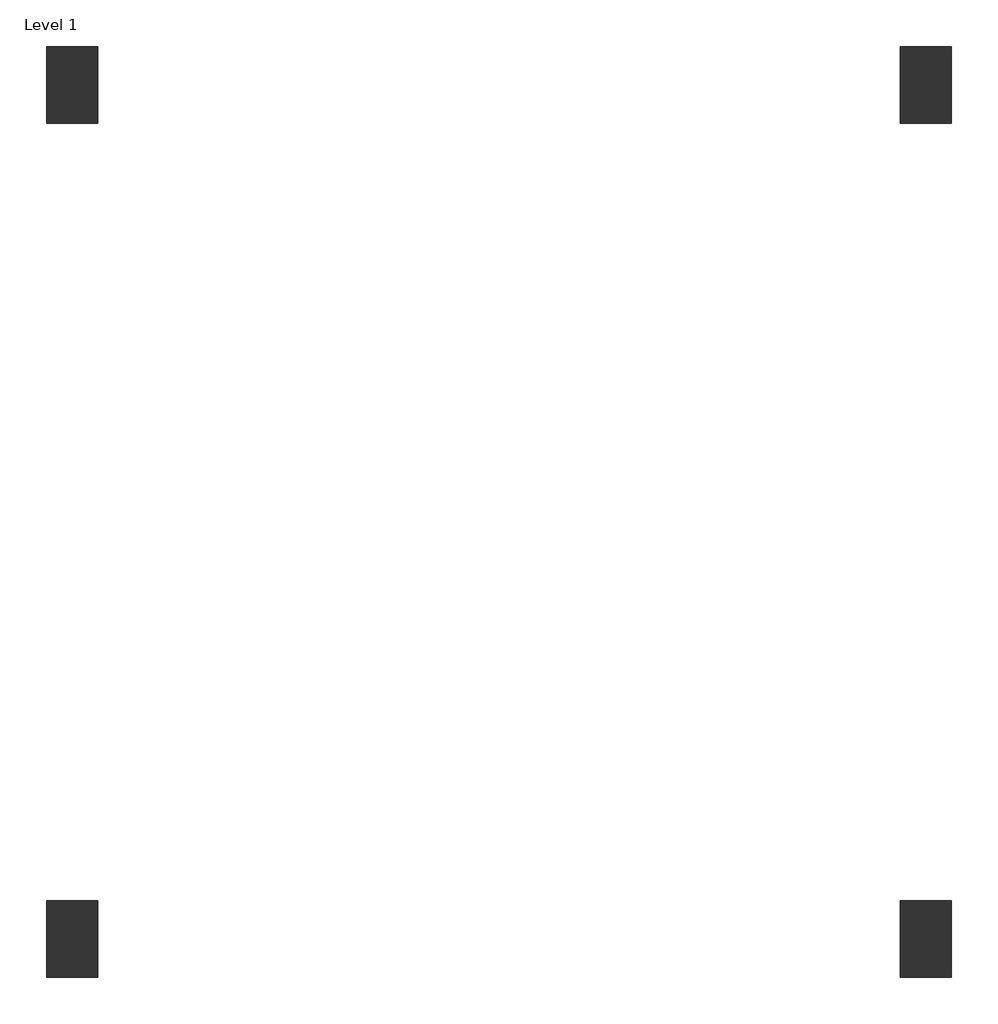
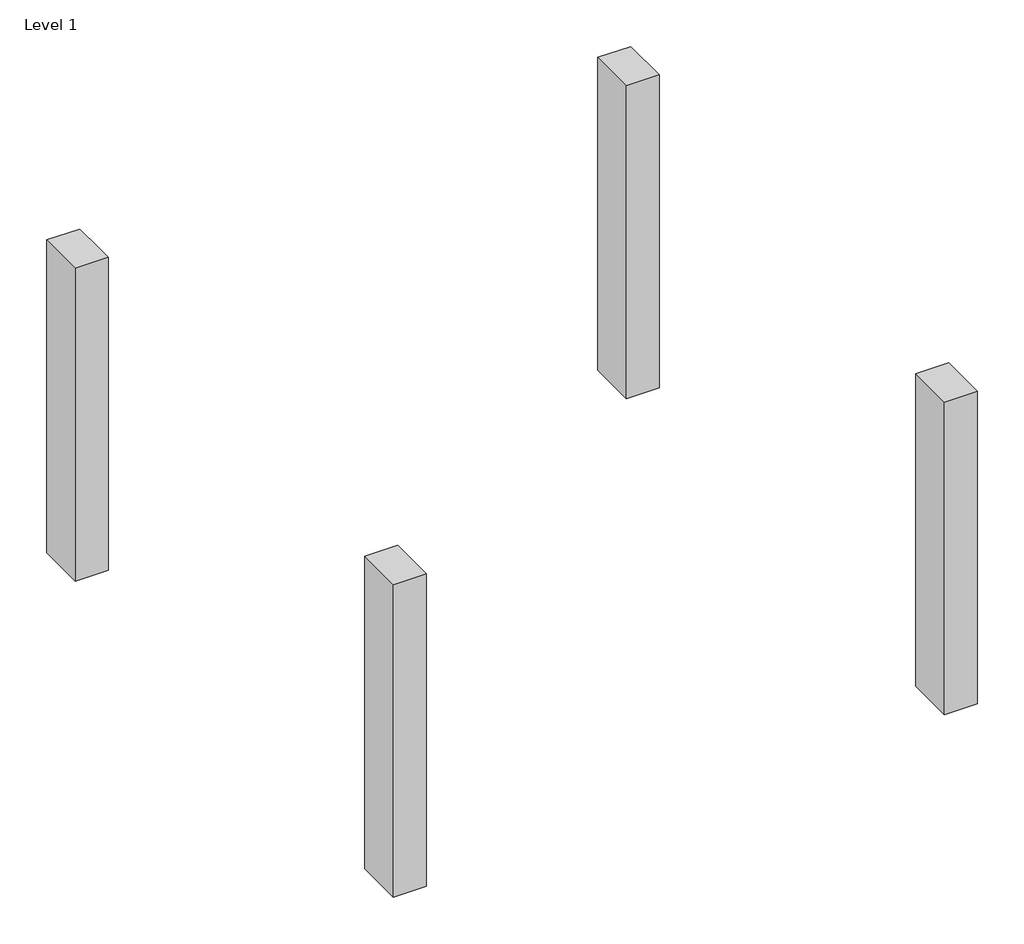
# One storey: 4 columns.
"""IFC4 building model written with IfcOpenShell, lengths in millimetres."""

from ifc_helpers import new_model, si_unit, origin, place, context, project, spatial, faceted_brep, element, save

model = new_model("IFC4")

# Units and contexts
model_context = context("Model", 3, world=origin())
ifc_project = project(units=[si_unit("LENGTHUNIT", "METRE", prefix="MILLI")], contexts=[model_context])

# Site, building, storey
site = spatial("IfcSite", under=ifc_project)
building = spatial("IfcBuilding", under=site)
storey = spatial("IfcBuildingStorey", under=building, Name="Level 1", Elevation=0.0)

# Columns
placement = place(None, origin())
element("IfcColumn", 1, ObjectType="M_Concrete-Rectangular-Column : 300 x 450mm", at=placement, inside=storey, context=model_context, shape_type="Brep", body=[
    faceted_brep([(-7112.5699354, 7360.0848928, 0.0), (-7112.5699354, 6910.0848928, 0.0), (-7412.5699354, 6910.0848928, 0.0), (-7412.5699354, 7360.0848928, 0.0), (-7112.5699354, 7360.0848928, 3000.0), (-7112.5699354, 7060.0848928, 3000.0), (-7112.5699354, 6910.0848928, 3000.0), (-7412.5699354, 6910.0848928, 3000.0), (-7412.5699354, 7360.0848928, 3000.0)], [[[0, 1, 2, 3]], [[4, 5, 6, 1, 0]], [[6, 7, 2, 1]], [[7, 8, 3, 2]], [[8, 4, 0, 3]], [[4, 8, 7, 6, 5]]]),
])
element("IfcColumn", 2, ObjectType="M_Concrete-Rectangular-Column : 300 x 450mm", at=placement, inside=storey, context=model_context, shape_type="Brep", body=[
    faceted_brep([(-2112.5699354, 7360.0848928, 0.0), (-2112.5699354, 6910.0848928, 0.0), (-2412.5699354, 6910.0848928, 0.0), (-2412.5699354, 7360.0848928, 0.0), (-2112.5699354, 7360.0848928, 3000.0), (-2112.5699354, 6910.0848928, 3000.0), (-2412.5699354, 6910.0848928, 3000.0), (-2412.5699354, 7060.0848928, 3000.0), (-2412.5699354, 7360.0848928, 3000.0)], [[[0, 1, 2, 3]], [[4, 5, 1, 0]], [[5, 6, 2, 1]], [[6, 7, 8, 3, 2]], [[8, 4, 0, 3]], [[4, 8, 7, 6, 5]]]),
])
element("IfcColumn", 3, ObjectType="M_Concrete-Rectangular-Column : 300 x 450mm", at=placement, inside=storey, context=model_context, shape_type="Brep", body=[
    faceted_brep([(-2112.5699354, 2360.0848928, 0.0), (-2112.5699354, 1910.0848928, 0.0), (-2412.5699354, 1910.0848928, 0.0), (-2412.5699354, 2360.0848928, 0.0), (-2112.5699354, 2360.0848928, 3000.0), (-2112.5699354, 1910.0848928, 3000.0), (-2412.5699354, 1910.0848928, 3000.0), (-2412.5699354, 2210.0848928, 3000.0), (-2412.5699354, 2360.0848928, 3000.0)], [[[0, 1, 2, 3]], [[4, 5, 1, 0]], [[5, 6, 2, 1]], [[6, 7, 8, 3, 2]], [[8, 4, 0, 3]], [[4, 8, 7, 6, 5]]]),
])
element("IfcColumn", 4, ObjectType="M_Concrete-Rectangular-Column : 300 x 450mm", at=placement, inside=storey, context=model_context, shape_type="Brep", body=[
    faceted_brep([(-7112.5699354, 2360.0848928, 0.0), (-7112.5699354, 1910.0848928, 0.0), (-7412.5699354, 1910.0848928, 0.0), (-7412.5699354, 2360.0848928, 0.0), (-7112.5699354, 2360.0848928, 3000.0), (-7112.5699354, 2210.0848928, 3000.0), (-7112.5699354, 1910.0848928, 3000.0), (-7412.5699354, 1910.0848928, 3000.0), (-7412.5699354, 2360.0848928, 3000.0)], [[[0, 1, 2, 3]], [[4, 5, 6, 1, 0]], [[6, 7, 2, 1]], [[7, 8, 3, 2]], [[8, 4, 0, 3]], [[4, 8, 7, 6, 5]]]),
])

save(model, "model.ifc")
